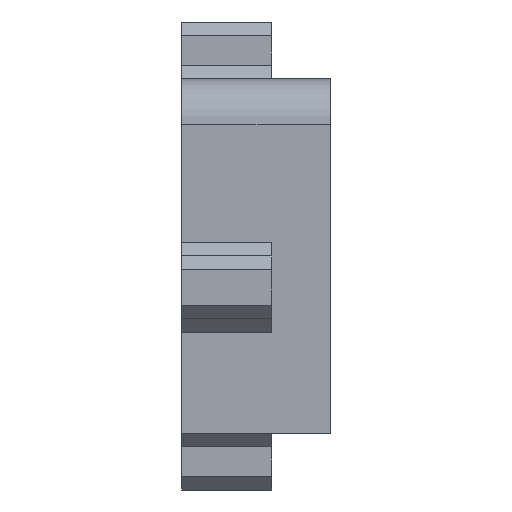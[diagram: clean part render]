
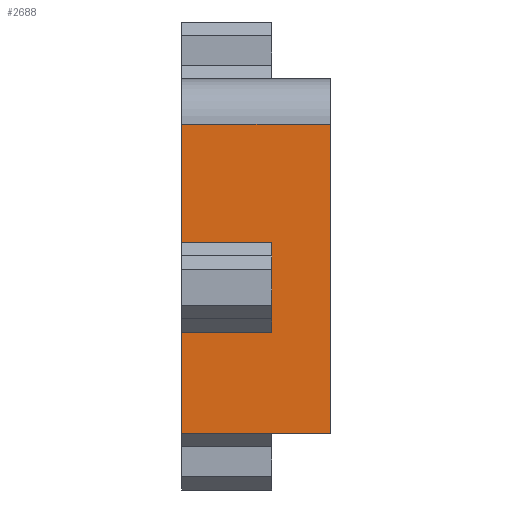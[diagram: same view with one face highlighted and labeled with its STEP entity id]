
A CAD part, front view. The second image highlights one B-rep face of the part: STEP entity #2688.
In plain terms, the highlighted planar face has unit normal (0, -1, 0).
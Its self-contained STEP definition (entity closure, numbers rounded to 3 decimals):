
#78=FACE_OUTER_BOUND('',#220,.T.);
#220=EDGE_LOOP('',(#1691,#1692,#1693,#1694,#1695,#1696,#1697,#1698));
#375=LINE('',#3874,#662);
#378=LINE('',#3881,#665);
#381=LINE('',#3887,#668);
#382=LINE('',#3889,#669);
#383=LINE('',#3891,#670);
#384=LINE('',#3892,#671);
#385=LINE('',#3894,#672);
#386=LINE('',#3895,#673);
#662=VECTOR('',#3103,10.);
#665=VECTOR('',#3108,10.);
#668=VECTOR('',#3113,10.);
#669=VECTOR('',#3114,10.);
#670=VECTOR('',#3115,10.);
#671=VECTOR('',#3116,10.);
#672=VECTOR('',#3117,10.);
#673=VECTOR('',#3118,10.);
#1050=VERTEX_POINT('',#3871);
#1051=VERTEX_POINT('',#3873);
#1053=VERTEX_POINT('',#3878);
#1054=VERTEX_POINT('',#3880);
#1056=VERTEX_POINT('',#3886);
#1057=VERTEX_POINT('',#3888);
#1058=VERTEX_POINT('',#3890);
#1059=VERTEX_POINT('',#3893);
#1300=EDGE_CURVE('',#1050,#1051,#375,.T.);
#1303=EDGE_CURVE('',#1053,#1054,#378,.T.);
#1306=EDGE_CURVE('',#1053,#1056,#381,.T.);
#1307=EDGE_CURVE('',#1057,#1056,#382,.T.);
#1308=EDGE_CURVE('',#1058,#1057,#383,.T.);
#1309=EDGE_CURVE('',#1058,#1051,#384,.T.);
#1310=EDGE_CURVE('',#1059,#1050,#385,.T.);
#1311=EDGE_CURVE('',#1054,#1059,#386,.T.);
#1691=ORIENTED_EDGE('',*,*,#1303,.F.);
#1692=ORIENTED_EDGE('',*,*,#1306,.T.);
#1693=ORIENTED_EDGE('',*,*,#1307,.F.);
#1694=ORIENTED_EDGE('',*,*,#1308,.F.);
#1695=ORIENTED_EDGE('',*,*,#1309,.T.);
#1696=ORIENTED_EDGE('',*,*,#1300,.F.);
#1697=ORIENTED_EDGE('',*,*,#1310,.F.);
#1698=ORIENTED_EDGE('',*,*,#1311,.F.);
#2452=PLANE('',#2856);
#2688=ADVANCED_FACE('',(#78),#2452,.T.);
#2856=AXIS2_PLACEMENT_3D('',#3885,#3111,#3112);
#3103=DIRECTION('',(0.,0.,-1.));
#3108=DIRECTION('',(-1.,0.,0.));
#3111=DIRECTION('center_axis',(0.,-1.,0.));
#3112=DIRECTION('ref_axis',(0.,0.,-1.));
#3113=DIRECTION('',(0.,0.,-1.));
#3114=DIRECTION('',(1.,0.,0.));
#3115=DIRECTION('',(0.,0.,1.));
#3116=DIRECTION('',(1.,0.,0.));
#3117=DIRECTION('',(1.,0.,0.));
#3118=DIRECTION('',(0.,0.,1.));
#3871=CARTESIAN_POINT('',(16.5,-6.,14.616));
#3873=CARTESIAN_POINT('',(16.5,-6.,-19.616));
#3874=CARTESIAN_POINT('',(16.5,-6.,14.616));
#3878=CARTESIAN_POINT('',(10.,-6.,1.5));
#3880=CARTESIAN_POINT('',(0.,-6.,1.5));
#3881=CARTESIAN_POINT('',(0.,-6.,1.5));
#3885=CARTESIAN_POINT('Origin',(0.,-6.,
0.));
#3886=CARTESIAN_POINT('',(10.,-6.,-8.465));
#3887=CARTESIAN_POINT('',(10.,-6.,-1.741));
#3888=CARTESIAN_POINT('',(0.,-6.,-8.465));
#3889=CARTESIAN_POINT('',(0.,-6.,-8.465));
#3890=CARTESIAN_POINT('',(0.,-6.,-19.616));
#3891=CARTESIAN_POINT('',(0.,-6.,0.));
#3892=CARTESIAN_POINT('',(-13.5,-6.,-19.616));
#3893=CARTESIAN_POINT('',(0.,-6.,14.616));
#3894=CARTESIAN_POINT('',(-6.75,-6.,14.616));
#3895=CARTESIAN_POINT('',(0.,-6.,0.));
